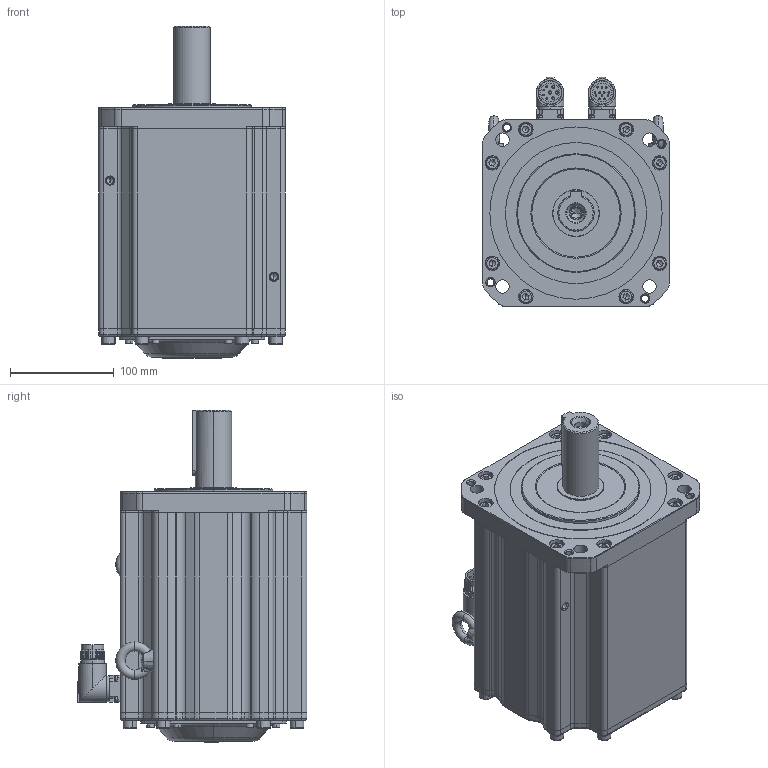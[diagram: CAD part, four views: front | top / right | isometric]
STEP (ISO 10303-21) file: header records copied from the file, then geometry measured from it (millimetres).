
FILE_DESCRIPTION (( 'STEP AP203' ), '1' );
FILE_NAME ('MC20-180-3M20-N502-1¡õPK-NNNN.STEP', '2025-05-05T03:29:53', ( '' ), ( '' ), 'SwSTEP 2.0', 'SolidWorks 2014', '' );
FILE_SCHEMA (( 'CONFIG_CONTROL_DESIGN' ));
Products named in the file (1): MC20-180-3M20-N502-1¡õPK-NNNN
Bounding box: 180 x 221.35 x 319.95 mm (x, y, z)
Volume: 4227658.6 mm3; surface area: 568549.1 mm2
Topology: 40 solids, 42 shells, 2190 faces, 5098 edges, 3031 vertices
Faces by surface type: plane 883, cylinder 569, cone 483, torus 208, bspline 47
Entity records: 63884 total; most frequent: CARTESIAN_POINT 13740, DIRECTION 11030, ORIENTED_EDGE 9944, EDGE_CURVE 4972, AXIS2_PLACEMENT_3D 4270, VERTEX_POINT 3031, VECTOR 2490, LINE 2490
